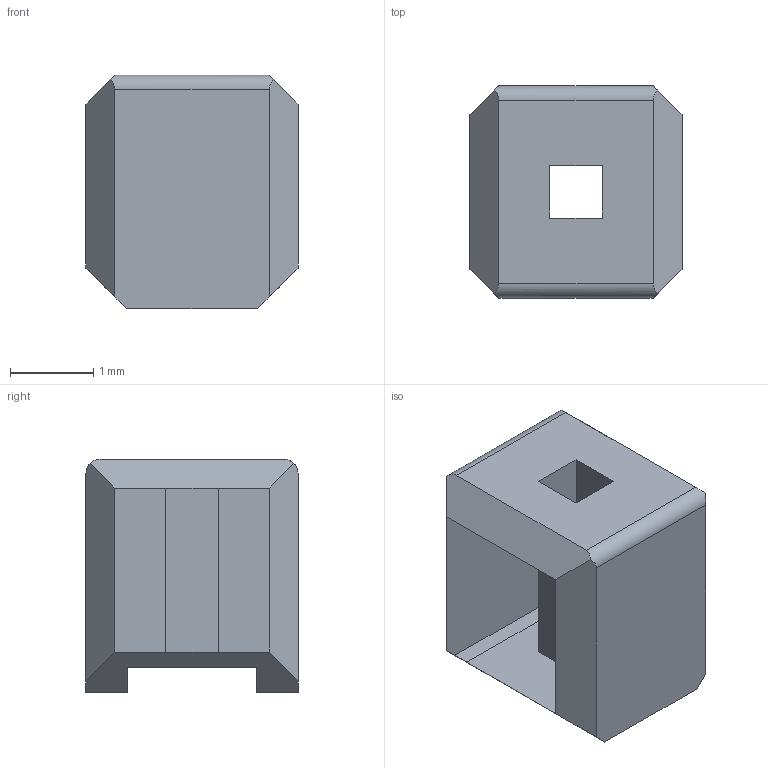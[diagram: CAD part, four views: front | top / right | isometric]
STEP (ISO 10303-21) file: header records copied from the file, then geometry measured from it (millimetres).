
FILE_DESCRIPTION(/* description */ ('STEP AP242 Edition 2','CAx-IF Rec.Pracs.---Representation and Presentation of Product Manufacturing Information (PMI)---4.0---2014-10-13','CAx-IF Rec.Pracs.---3D Tessellated Geometry---0.4---2014-09-14','2;1','CAx-IF Rec.Pracs.---User Defined Attributes---1.5---2016-08-15'),/* implementation_level */ '2;1');
FILE_NAME(/* name */ 'Drone Layout - 1x6 TH Pitch 2.54mm v1-1__Body9',/* time_stamp */ '2026-10-04T22:22:49Z',/* author */ (''),/* organization */ (''),/* preprocessor_version */ 'ST-DEVELOPER v20',/* originating_system */ 'ONSHAPE BY PTC INC, 1.221',/* authorisation */ ' ');
FILE_SCHEMA (('AP242_MANAGED_MODEL_BASED_3D_ENGINEERING_MIM_LF { 1 0 10303 442 3 1 4 }'));
Length unit declared in the file: metre
Products named in the file (1): 1x6 TH Pitch 2.54mm v1:1__Body9
Bounding box: 2.54 x 2.54 x 2.8 mm (x, y, z)
Surface area: 38.4 mm2 (no closed solid volume)
Topology: 0 solids, 1 shells, 23 faces, 66 edges, 44 vertices
Faces by surface type: plane 21, cylinder 2
Entity records: 756 total; most frequent: CARTESIAN_POINT 150, ORIENTED_EDGE 128, DIRECTION 106, EDGE_CURVE 66, LINE 58, VECTOR 58, VERTEX_POINT 44, EDGE_LOOP 25
